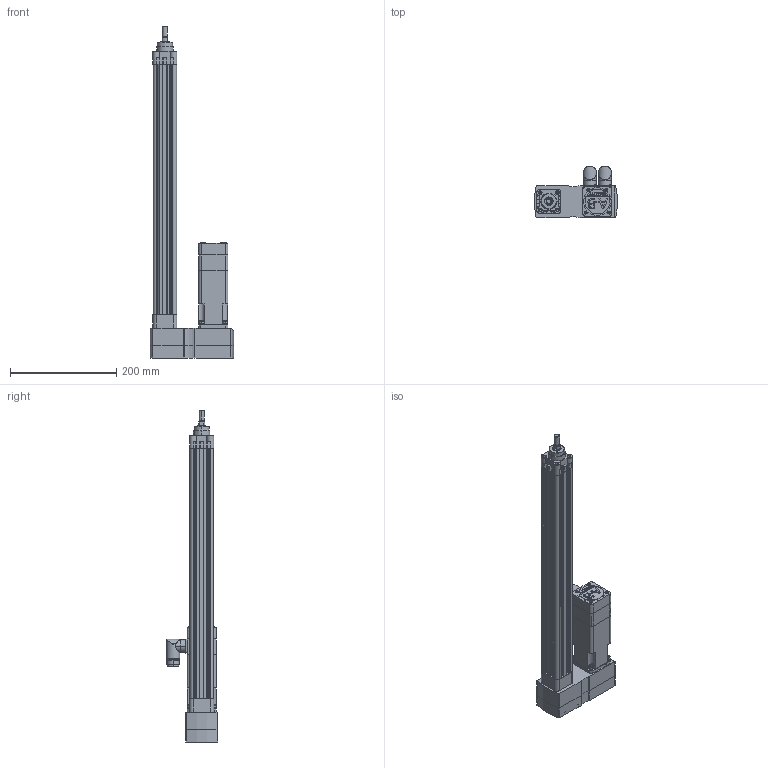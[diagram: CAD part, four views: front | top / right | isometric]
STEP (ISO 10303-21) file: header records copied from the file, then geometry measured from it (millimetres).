
FILE_DESCRIPTION (( 'STEP AP214' ), '1' );
FILE_NAME ('Rockwell Automation-$PARTNUMBER.STEP', '2015-07-13T15:48:07', ( 'Windows User' ), ( '' ), 'SwSTEP 2.0', 'SolidWorks 2015', '' );
FILE_SCHEMA (( 'AUTOMOTIVE_DESIGN' ));
Length unit declared in the file: millimetre
Products named in the file (15): Rockwell Automation-$PARTNUMBER; Rockwell Automation-$PARTNUMBER_Rockwell Automation-MPAR-X1400B-V4E_MPAR-x1400x; Rockwell Automation-$PARTNUMBER_Rockwell Automation-MPAR-X1400B-V4E_PRT0006-543122; Rockwell Automation-$PARTNUMBER_Rockwell Automation-MPAR-X1400B-V4E_PRT0005-543122; Rockwell Automation-$PARTNUMBER_Rockwell Automation-MPAR-X1400B-V4E_MPL-x1520F-V-X204_MPL-x1520x-xJ44AA; Rockwell Automation-$PARTNUMBER_Rockwell Automation-MPAR-X1400B-V4E_MPL-x1520x-xJ44AA_MPL-15xx-Feedback Connector; Rockwell Automation-$PARTNUMBER_Rockwell Automation-MPAR-X1400B-V4E_MPL-x1520x-xJ44AA_MPL-15xx-Power Connector; Rockwell Automation-$PARTNUMBER_Rockwell Automation-MPAR-X1400B-V4E_MPL-x1520x-xJ44AA_MPL-15xx-Shaft-Key_1520-SHAFT-KEYED-BRAKE; Rockwell Automation-$PARTNUMBER_Rockwell Automation-MPAR-X1400B-V4E_MPL-x1520x-xJ44AA_MPL-15xx-Body_1520-BRAKE; Rockwell Automation-$PARTNUMBER_Rockwell Automation-MPAR-X1400B-V4E_627500; Rockwell Automation-$PARTNUMBER_Rockwell Automation-MPAR-X1400B-V4E_627500_1210151; Rockwell Automation-$PARTNUMBER_Rockwell Automation-MPAR-X1400B-V4E_627500_200048_2; Rockwell Automation-$PARTNUMBER_Rockwell Automation-MPAR-X1400B-V4E_627500_200671_1; Rockwell Automation-$PARTNUMBER_Rockwell Automation-MPAR-X1400B-V4E_627500_223541_3; Rockwell Automation-$PARTNUMBER_Rockwell Automation-MPAR-X1400B-V4E_627500_1210193
Assembly tree (24 placements, depth 3):
  Rockwell Automation-$PARTNUMBER
    Rockwell Automation-$PARTNUMBER_Rockwell Automation-MPAR-X1400B-V4E_627500
      Rockwell Automation-$PARTNUMBER_Rockwell Automation-MPAR-X1400B-V4E_627500_1210193
      Rockwell Automation-$PARTNUMBER_Rockwell Automation-MPAR-X1400B-V4E_627500_223541_3  x4
      Rockwell Automation-$PARTNUMBER_Rockwell Automation-MPAR-X1400B-V4E_627500_200671_1  x4
      Rockwell Automation-$PARTNUMBER_Rockwell Automation-MPAR-X1400B-V4E_627500_200048_2  x5
      Rockwell Automation-$PARTNUMBER_Rockwell Automation-MPAR-X1400B-V4E_627500_1210151
    Rockwell Automation-$PARTNUMBER_Rockwell Automation-MPAR-X1400B-V4E_MPL-x1520F-V-X204_MPL-x1520x-xJ44AA
      Rockwell Automation-$PARTNUMBER_Rockwell Automation-MPAR-X1400B-V4E_MPL-x1520x-xJ44AA_MPL-15xx-Body_1520-BRAKE
      Rockwell Automation-$PARTNUMBER_Rockwell Automation-MPAR-X1400B-V4E_MPL-x1520x-xJ44AA_MPL-15xx-Shaft-Key_1520-SHAFT-KEYED-BRAKE
      Rockwell Automation-$PARTNUMBER_Rockwell Automation-MPAR-X1400B-V4E_MPL-x1520x-xJ44AA_MPL-15xx-Power Connector
      Rockwell Automation-$PARTNUMBER_Rockwell Automation-MPAR-X1400B-V4E_MPL-x1520x-xJ44AA_MPL-15xx-Feedback Connector
    Rockwell Automation-$PARTNUMBER_Rockwell Automation-MPAR-X1400B-V4E_MPAR-x1400x
      Rockwell Automation-$PARTNUMBER_Rockwell Automation-MPAR-X1400B-V4E_PRT0005-543122
      Rockwell Automation-$PARTNUMBER_Rockwell Automation-MPAR-X1400B-V4E_PRT0006-543122
Bounding box: 156.61 x 96.6 x 626 mm (x, y, z)
Volume: 1345477 mm3; surface area: 397395.9 mm2
Topology: 25 solids, 25 shells, 1713 faces, 4096 edges, 2552 vertices
Faces by surface type: plane 677, cylinder 580, cone 294, bspline 114, torus 48
Entity records: 45392 total; most frequent: CARTESIAN_POINT 10426, DIRECTION 7484, ORIENTED_EDGE 6808, EDGE_CURVE 3404, AXIS2_PLACEMENT_3D 2833, VERTEX_POINT 2132, VECTOR 1818, LINE 1818
